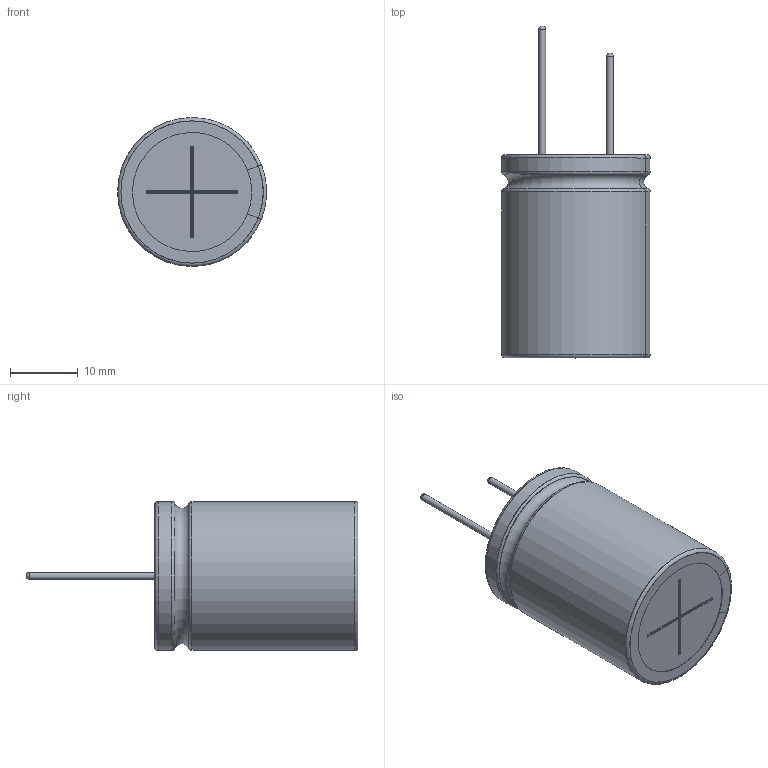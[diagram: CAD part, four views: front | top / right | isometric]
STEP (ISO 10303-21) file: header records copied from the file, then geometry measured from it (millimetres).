
FILE_DESCRIPTION(/* description */ (''),/* implementation_level */ '2;1');
FILE_NAME(/* name */ '22x30_Lead.stp',/* time_stamp */ '2017-09-06T16:10:58+09:00',/* author */ (''),/* organization */ (''),/* preprocessor_version */ 'ST-DEVELOPER v16',/* originating_system */ 'SIEMENS PLM Software NX 11.0',/* authorisation */ '');
FILE_SCHEMA (('AUTOMOTIVE_DESIGN { 1 0 10303 214 3 1 1 1 }'));
Length unit declared in the file: millimetre
Products named in the file (1): 22x30_Lead_0
Bounding box: 21.97 x 49 x 22 mm (x, y, z)
Volume: 11280.8 mm3; surface area: 7623.5 mm2
Topology: 3 solids, 3 shells, 100 faces, 252 edges, 160 vertices
Faces by surface type: cylinder 36, plane 28, torus 26, sphere 6, bspline 4
Full cylindrical faces by diameter (mm): 1 x2, 21.8 x2
Entity records: 3386 total; most frequent: CARTESIAN_POINT 605, DIRECTION 566, ORIENTED_EDGE 468, AXIS2_PLACEMENT_3D 235, EDGE_CURVE 234, VERTEX_POINT 154, CIRCLE 130, EDGE_LOOP 114
